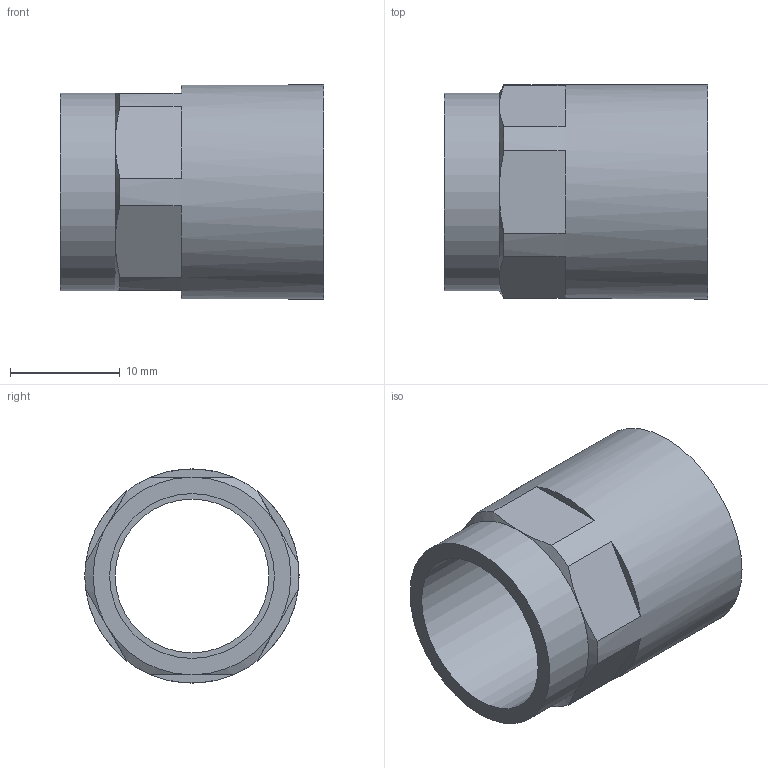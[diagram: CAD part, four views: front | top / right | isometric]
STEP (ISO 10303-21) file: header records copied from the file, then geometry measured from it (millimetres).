
FILE_DESCRIPTION((''),'2;1');
FILE_NAME('\\lg50001\SANHA_Legnica\Engineering\Public\RYSUNKI\SANHA POLSKA\4270G\inventor\14270_15-38(1).stp','2014-08-25T12:24:54',('gomulka'),(''),'Autodesk Inventor 2009','Autodesk Inventor 2009','');
FILE_SCHEMA(('AUTOMOTIVE_DESIGN { 1 0 10303 214 1 1 1 1 }'));
Length unit declared in the file: millimetre
Products named in the file (1): 14270_15-38(1)
Bounding box: 24 x 19.5 x 19.5 mm (x, y, z)
Volume: 2453.6 mm3; surface area: 2905.6 mm2
Topology: 1 solids, 1 shells, 31 faces, 71 edges, 44 vertices
Faces by surface type: plane 16, cone 8, cylinder 6, torus 1
Full cylindrical faces by diameter (mm): 14 x1, 14.95 x1, 15 x1, 17.3 x1, 18 x1, 19.5 x1
Entity records: 830 total; most frequent: CARTESIAN_POINT 158, DIRECTION 142, ORIENTED_EDGE 120, AXIS2_PLACEMENT_3D 62, EDGE_CURVE 60, EDGE_LOOP 44, VERTEX_POINT 42, FACE_OUTER_BOUND 31
